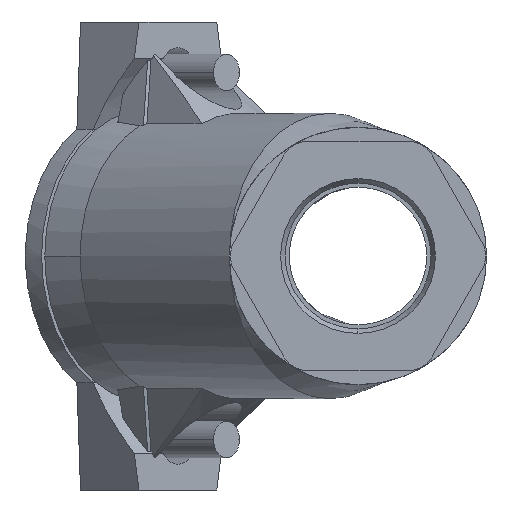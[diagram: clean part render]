
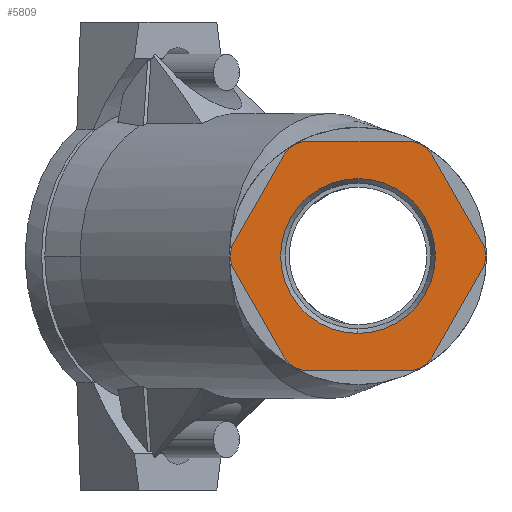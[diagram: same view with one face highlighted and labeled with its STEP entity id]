
A CAD part, left-side view. The second image highlights one B-rep face of the part: STEP entity #5809.
In plain terms, the highlighted planar face has unit normal (-1, 0, 0).
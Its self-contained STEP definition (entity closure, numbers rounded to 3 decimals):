
#882 = LINE ( 'NONE', #959, #958 ) ;
#893 = AXIS2_PLACEMENT_3D ( 'NONE', #984, #983, #982 ) ;
#894 = PLANE ( 'NONE',  #893 ) ;
#897 = FACE_OUTER_BOUND ( 'NONE', #5821, .T. ) ;
#898 = FACE_BOUND ( 'NONE', #9924, .T. ) ;
#941 = CARTESIAN_POINT ( 'NONE',  ( -39.019, -10.949, -19. ) ) ;
#942 = AXIS2_PLACEMENT_3D ( 'NONE', #941, #974, #973 ) ;
#943 = CIRCLE ( 'NONE', #942, 6. ) ;
#950 = CARTESIAN_POINT ( 'NONE',  ( -39.019, -27.041, -2.983 ) ) ;
#951 = DIRECTION ( 'NONE',  ( 0., 0., -1. ) ) ;
#952 = DIRECTION ( 'NONE',  ( -1., 0., 0. ) ) ;
#954 = CARTESIAN_POINT ( 'NONE',  ( -39.019, -21.835, 0. ) ) ;
#955 = AXIS2_PLACEMENT_3D ( 'NONE', #954, #952, #951 ) ;
#956 = CIRCLE ( 'NONE', #955, 6. ) ;
#957 = DIRECTION ( 'NONE',  ( 0., 0.497, -0.868 ) ) ;
#958 = VECTOR ( 'NONE', #957, 1000. ) ;
#959 = CARTESIAN_POINT ( 'NONE',  ( -39.019, -27.041, -2.983 ) ) ;
#972 = CARTESIAN_POINT ( 'NONE',  ( -39.019, -16.155, -21.983 ) ) ;
#973 = DIRECTION ( 'NONE',  ( 0., 0., 1. ) ) ;
#974 = DIRECTION ( 'NONE',  ( 1., 0., 0. ) ) ;
#982 = DIRECTION ( 'NONE',  ( 0., 0., 1. ) ) ;
#983 = DIRECTION ( 'NONE',  ( -1., 0., 0. ) ) ;
#984 = CARTESIAN_POINT ( 'NONE',  ( -39.019, -15.875, 0. ) ) ;
#1001 = DIRECTION ( 'NONE',  ( 0., 0.497, 0.868 ) ) ;
#1002 = VECTOR ( 'NONE', #1001, 1000. ) ;
#1003 = CARTESIAN_POINT ( 'NONE',  ( -39.019, 27.041, -2.983 ) ) ;
#1004 = LINE ( 'NONE', #1003, #1002 ) ;
#1013 = DIRECTION ( 'NONE',  ( 0., 0.497, 0.868 ) ) ;
#1014 = VECTOR ( 'NONE', #1013, 1000. ) ;
#1015 = CARTESIAN_POINT ( 'NONE',  ( -39.019, -27.041, 2.983 ) ) ;
#1016 = LINE ( 'NONE', #1015, #1014 ) ;
#4154 = VERTEX_POINT ( 'NONE', #7395 ) ;
#4286 = VERTEX_POINT ( 'NONE', #7748 ) ;
#4287 = EDGE_CURVE ( 'NONE', #4286, #4154, #7739, .T. ) ;
#5793 = ORIENTED_EDGE ( 'NONE', *, *, #5822, .F. ) ;
#5796 = ORIENTED_EDGE ( 'NONE', *, *, #5797, .F. ) ;
#5797 = EDGE_CURVE ( 'NONE', #5798, #9780, #943, .T. ) ;
#5798 = VERTEX_POINT ( 'NONE', #972 ) ;
#5799 = EDGE_CURVE ( 'NONE', #9925, #9950, #1016, .T. ) ;
#5800 = ORIENTED_EDGE ( 'NONE', *, *, #9834, .T. ) ;
#5801 = EDGE_CURVE ( 'NONE', #9789, #9766, #1004, .T. ) ;
#5802 = ORIENTED_EDGE ( 'NONE', *, *, #9776, .F. ) ;
#5809 = ADVANCED_FACE ( 'NONE', ( #898, #897 ), #894, .T. ) ;
#5815 = ORIENTED_EDGE ( 'NONE', *, *, #9954, .T. ) ;
#5816 = ORIENTED_EDGE ( 'NONE', *, *, #9967, .T. ) ;
#5817 = ORIENTED_EDGE ( 'NONE', *, *, #9841, .T. ) ;
#5821 = EDGE_LOOP ( 'NONE', ( #9787, #9788, #5802, #9778, #5796, #5793, #5823, #5824, #5800, #5815, #5816, #5817 ) ) ;
#5822 = EDGE_CURVE ( 'NONE', #5826, #5798, #882, .T. ) ;
#5823 = ORIENTED_EDGE ( 'NONE', *, *, #5825, .T. ) ;
#5824 = ORIENTED_EDGE ( 'NONE', *, *, #5799, .T. ) ;
#5825 = EDGE_CURVE ( 'NONE', #5826, #9925, #956, .T. ) ;
#5826 = VERTEX_POINT ( 'NONE', #950 ) ;
#7395 = CARTESIAN_POINT ( 'NONE',  ( -39.019, 0., -16.875 ) ) ;
#7737 = CARTESIAN_POINT ( 'NONE',  ( -39.019, 0., 0. ) ) ;
#7738 = AXIS2_PLACEMENT_3D ( 'NONE', #7737, #7787, #7786 ) ;
#7739 = CIRCLE ( 'NONE', #7738, 16.875 ) ;
#7748 = CARTESIAN_POINT ( 'NONE',  ( -39.019, 0., 16.875 ) ) ;
#7786 = DIRECTION ( 'NONE',  ( 0., 0., 1. ) ) ;
#7787 = DIRECTION ( 'NONE',  ( 1., 0., 0. ) ) ;
#9766 = VERTEX_POINT ( 'NONE', #10733 ) ;
#9776 = EDGE_CURVE ( 'NONE', #9777, #9789, #10666, .T. ) ;
#9777 = VERTEX_POINT ( 'NONE', #10661 ) ;
#9778 = ORIENTED_EDGE ( 'NONE', *, *, #9779, .F. ) ;
#9779 = EDGE_CURVE ( 'NONE', #9780, #9777, #10660, .T. ) ;
#9780 = VERTEX_POINT ( 'NONE', #10656 ) ;
#9787 = ORIENTED_EDGE ( 'NONE', *, *, #9965, .T. ) ;
#9788 = ORIENTED_EDGE ( 'NONE', *, *, #5801, .F. ) ;
#9789 = VERTEX_POINT ( 'NONE', #10823 ) ;
#9834 = EDGE_CURVE ( 'NONE', #9950, #9955, #11047, .T. ) ;
#9841 = EDGE_CURVE ( 'NONE', #9969, #9844, #10957, .T. ) ;
#9844 = VERTEX_POINT ( 'NONE', #10953 ) ;
#9915 = ORIENTED_EDGE ( 'NONE', *, *, #4287, .T. ) ;
#9916 = ORIENTED_EDGE ( 'NONE', *, *, #9917, .T. ) ;
#9917 = EDGE_CURVE ( 'NONE', #4154, #4286, #10860, .T. ) ;
#9924 = EDGE_LOOP ( 'NONE', ( #9915, #9916 ) ) ;
#9925 = VERTEX_POINT ( 'NONE', #11096 ) ;
#9950 = VERTEX_POINT ( 'NONE', #11124 ) ;
#9954 = EDGE_CURVE ( 'NONE', #9955, #9968, #11144, .T. ) ;
#9955 = VERTEX_POINT ( 'NONE', #11140 ) ;
#9965 = EDGE_CURVE ( 'NONE', #9844, #9766, #11244, .T. ) ;
#9967 = EDGE_CURVE ( 'NONE', #9968, #9969, #11151, .T. ) ;
#9968 = VERTEX_POINT ( 'NONE', #11152 ) ;
#9969 = VERTEX_POINT ( 'NONE', #11176 ) ;
#10207 = DIRECTION ( 'NONE',  ( 0., 0., 1. ) ) ;
#10656 = CARTESIAN_POINT ( 'NONE',  ( -39.019, -10.949, -25. ) ) ;
#10657 = DIRECTION ( 'NONE',  ( 0., 1., 0. ) ) ;
#10658 = VECTOR ( 'NONE', #10657, 1000. ) ;
#10659 = CARTESIAN_POINT ( 'NONE',  ( -39.019, 10.949, -25. ) ) ;
#10660 = LINE ( 'NONE', #10659, #10658 ) ;
#10661 = CARTESIAN_POINT ( 'NONE',  ( -39.019, 10.949, -25. ) ) ;
#10662 = DIRECTION ( 'NONE',  ( 0., 0., -1. ) ) ;
#10663 = DIRECTION ( 'NONE',  ( 1., 0., 0. ) ) ;
#10664 = CARTESIAN_POINT ( 'NONE',  ( -39.019, 10.949, -19. ) ) ;
#10665 = AXIS2_PLACEMENT_3D ( 'NONE', #10664, #10663, #10662 ) ;
#10666 = CIRCLE ( 'NONE', #10665, 6. ) ;
#10733 = CARTESIAN_POINT ( 'NONE',  ( -39.019, 27.041, -2.983 ) ) ;
#10823 = CARTESIAN_POINT ( 'NONE',  ( -39.019, 16.155, -21.983 ) ) ;
#10858 = CARTESIAN_POINT ( 'NONE',  ( -39.019, 0., 0. ) ) ;
#10859 = AXIS2_PLACEMENT_3D ( 'NONE', #10858, #10867, #10207 ) ;
#10860 = CIRCLE ( 'NONE', #10859, 16.875 ) ;
#10867 = DIRECTION ( 'NONE',  ( 1., 0., 0. ) ) ;
#10953 = CARTESIAN_POINT ( 'NONE',  ( -39.019, 27.041, 2.983 ) ) ;
#10954 = DIRECTION ( 'NONE',  ( 0., 0.497, -0.868 ) ) ;
#10955 = VECTOR ( 'NONE', #10954, 1000. ) ;
#10956 = CARTESIAN_POINT ( 'NONE',  ( -39.019, 27.041, 2.983 ) ) ;
#10957 = LINE ( 'NONE', #10956, #10955 ) ;
#11040 = DIRECTION ( 'NONE',  ( 0., 0., -1. ) ) ;
#11041 = DIRECTION ( 'NONE',  ( -1., 0., 0. ) ) ;
#11042 = CARTESIAN_POINT ( 'NONE',  ( -39.019, -10.949, 19. ) ) ;
#11043 = AXIS2_PLACEMENT_3D ( 'NONE', #11042, #11041, #11040 ) ;
#11047 = CIRCLE ( 'NONE', #11043, 6. ) ;
#11096 = CARTESIAN_POINT ( 'NONE',  ( -39.019, -27.041, 2.983 ) ) ;
#11124 = CARTESIAN_POINT ( 'NONE',  ( -39.019, -16.155, 21.983 ) ) ;
#11140 = CARTESIAN_POINT ( 'NONE',  ( -39.019, -10.949, 25. ) ) ;
#11141 = DIRECTION ( 'NONE',  ( 0., 1., 0. ) ) ;
#11142 = VECTOR ( 'NONE', #11141, 1000. ) ;
#11143 = CARTESIAN_POINT ( 'NONE',  ( -39.019, 10.949, 25. ) ) ;
#11144 = LINE ( 'NONE', #11143, #11142 ) ;
#11147 = DIRECTION ( 'NONE',  ( 0., 0., 1. ) ) ;
#11148 = DIRECTION ( 'NONE',  ( -1., 0., 0. ) ) ;
#11149 = CARTESIAN_POINT ( 'NONE',  ( -39.019, 10.949, 19. ) ) ;
#11150 = AXIS2_PLACEMENT_3D ( 'NONE', #11149, #11148, #11147 ) ;
#11151 = CIRCLE ( 'NONE', #11150, 6. ) ;
#11152 = CARTESIAN_POINT ( 'NONE',  ( -39.019, 10.949, 25. ) ) ;
#11153 = DIRECTION ( 'NONE',  ( 0., 0., -1. ) ) ;
#11154 = DIRECTION ( 'NONE',  ( -1., 0., 0. ) ) ;
#11176 = CARTESIAN_POINT ( 'NONE',  ( -39.019, 16.155, 21.983 ) ) ;
#11241 = CARTESIAN_POINT ( 'NONE',  ( -39.019, 21.835, 0. ) ) ;
#11242 = AXIS2_PLACEMENT_3D ( 'NONE', #11241, #11154, #11153 ) ;
#11244 = CIRCLE ( 'NONE', #11242, 6. ) ;
